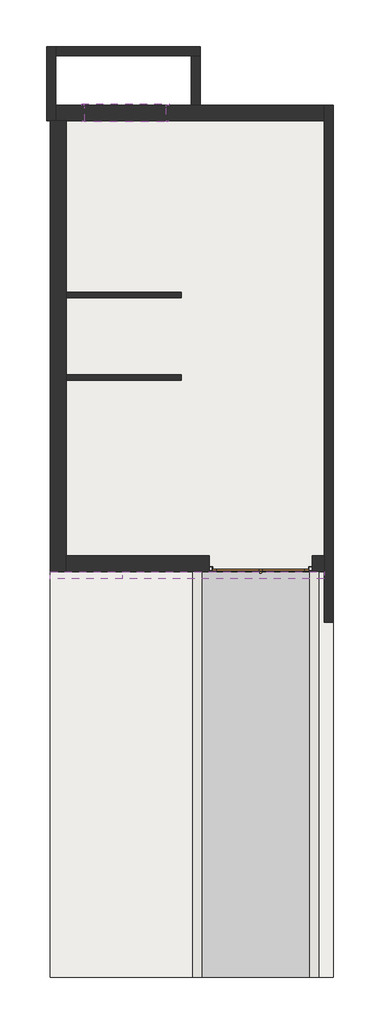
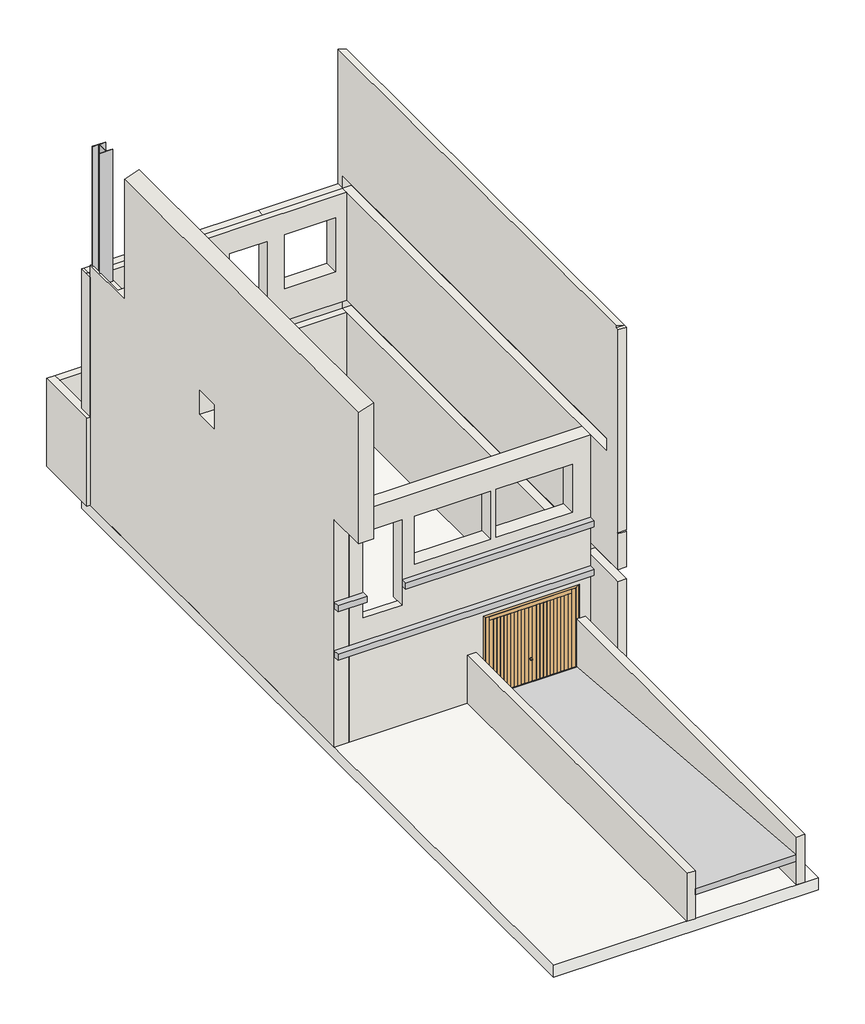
# One storey, incomplete: 11 walls, 2 proxies, 1 column, 1 door, 1 ramp, 1 slab, 1 window.
"""IFC4 building model written with IfcOpenShell, lengths in millimetres."""

import ifcopenshell
import ifcopenshell.guid

model = None  # the IFC model being written
_history = None  # IfcOwnerHistory: only IFC2X3 demands one
_inside = {}  # id of a spatial element -> (the spatial element, [elements in it])
_under = {}  # id of a project, library or spatial element -> (it, [spatial elements below it])
_declared = {}  # id of a project -> (the project, [libraries it declares])
_typed = {}  # id of a type object -> (the type object, [elements of that type])
_made_of = {}  # id of a material, layer set ... -> (it, [elements and type objects made of it])


def new_model(schema):
    """Start an empty IFC model of exactly this schema.

    Asked for "IFC4X3", IfcOpenShell would pick the latest addendum, in which some entities
    have other attributes; the version numbers below select the first issue.
    IFC2X3 requires an IfcOwnerHistory on every rooted entity: one is made here for all.
    """
    global model, _history
    if schema == "IFC4X3":
        model = ifcopenshell.file(schema_version=(4, 3, 0, 0))
    else:
        model = ifcopenshell.file(schema=schema)
    _inside.clear()
    _under.clear()
    _declared.clear()
    _typed.clear()
    _made_of.clear()
    _history = None
    if model.schema == "IFC2X3":
        org = make("IfcOrganization", Name="unknown")
        user = make(
            "IfcPersonAndOrganization",
            ThePerson=make("IfcPerson", FamilyName="unknown"),
            TheOrganization=org,
        )
        app = make(
            "IfcApplication",
            ApplicationDeveloper=org,
            Version="unknown",
            ApplicationFullName="unknown",
            ApplicationIdentifier="unknown",
        )
        _history = make(
            "IfcOwnerHistory",
            OwningUser=user,
            OwningApplication=app,
            ChangeAction="ADDED",
            CreationDate=0,
        )
    return model


def make(cls, **values):
    """One entity of the class cls with the attributes given. An attribute that is None is left unset."""
    return model.create_entity(
        cls, **{name: value for name, value in values.items() if value is not None}
    )


def rooted(cls, **values):
    """An entity with a GlobalId (a new one), such as an element, a storey or a relation."""
    return make(cls, GlobalId=ifcopenshell.guid.new(), OwnerHistory=_history, **values)


def si_unit(unit_type, name, prefix=None):
    """IfcSIUnit, for example si_unit("LENGTHUNIT", "METRE", prefix="MILLI")."""
    return make("IfcSIUnit", UnitType=unit_type, Prefix=prefix, Name=name)


def assignment(units):
    """IfcUnitAssignment: the units of a project."""
    return None if units is None else make("IfcUnitAssignment", Units=units)


def point(xyz):
    """IfcCartesianPoint."""
    return None if xyz is None else make("IfcCartesianPoint", Coordinates=xyz)


def direction(xyz):
    """IfcDirection."""
    return None if xyz is None else make("IfcDirection", DirectionRatios=xyz)


def frame(location, z_axis=None, x_axis=None):
    """IfcAxis2Placement3D, a coordinate frame: its origin and axes. An axis left out is left unset."""
    return make(
        "IfcAxis2Placement3D",
        Location=point(location),
        Axis=direction(z_axis),
        RefDirection=direction(x_axis),
    )


def frame_2d(location, x_axis=None):
    """IfcAxis2Placement2D, a coordinate frame in the plane: its origin and x axis."""
    return make(
        "IfcAxis2Placement2D", Location=point(location), RefDirection=direction(x_axis)
    )


def origin():
    """The frame at (0, 0, 0) with its axes left unset."""
    return frame((0.0, 0.0, 0.0))


def place(relative_to, where):
    """IfcLocalPlacement: puts the frame where relative to a parent placement (None: the world)."""
    return make(
        "IfcLocalPlacement", PlacementRelTo=relative_to, RelativePlacement=where
    )


def context(
    kind, dimensions, precision=None, world=None, true_north=None, identifier=None
):
    """IfcGeometricRepresentationContext, for example the 3D "Model" context."""
    return make(
        "IfcGeometricRepresentationContext",
        ContextIdentifier=identifier,
        ContextType=kind,
        CoordinateSpaceDimension=dimensions,
        Precision=precision,
        WorldCoordinateSystem=world,
        TrueNorth=true_north,
    )


def project(units=None, contexts=None):
    """IfcProject with its units and contexts."""
    return rooted(
        "IfcProject",
        Name="project",
        RepresentationContexts=contexts,
        UnitsInContext=assignment(units),
    )


def spatial(cls, under=None, at=None, **own):
    """A site, building, storey or space (cls), placed at a placement, below another one or the project."""
    s = rooted(cls, ObjectPlacement=at, **own)
    if under is not None:
        _under.setdefault(under.id(), (under, []))[1].append(s)
    return s


def polyline(points):
    """IfcPolyline through the points."""
    return make("IfcPolyline", Points=[point(p) for p in points])


def circle_curve(where, radius):
    """IfcCircle in the frame where."""
    return make("IfcCircle", Position=where, Radius=radius)


def ellipse_curve(where, semi_axis1, semi_axis2):
    """IfcEllipse in the frame where."""
    return make(
        "IfcEllipse", Position=where, SemiAxis1=semi_axis1, SemiAxis2=semi_axis2
    )


def trimmed(basis, trim1, trim2, sense, master):
    """IfcTrimmedCurve: the piece of a basis curve between two trims."""
    return make(
        "IfcTrimmedCurve",
        BasisCurve=basis,
        Trim1=trim1,
        Trim2=trim2,
        SenseAgreement=sense,
        MasterRepresentation=master,
    )


def segment(curve, same_sense, transition):
    """IfcCompositeCurveSegment."""
    return make(
        "IfcCompositeCurveSegment",
        Transition=transition,
        SameSense=same_sense,
        ParentCurve=curve,
    )


def composite_curve(segments, self_intersect=None):
    """IfcCompositeCurve: segments joined end to end."""
    return make("IfcCompositeCurve", Segments=segments, SelfIntersect=self_intersect)


def outline(outer, holes=None, kind="AREA"):
    """IfcArbitraryClosedProfileDef: a profile drawn as a closed curve; with holes, ...WithVoids."""
    if holes is None:
        return make("IfcArbitraryClosedProfileDef", ProfileType=kind, OuterCurve=outer)
    return make(
        "IfcArbitraryProfileDefWithVoids",
        ProfileType=kind,
        OuterCurve=outer,
        InnerCurves=holes,
    )


def extrude(swept, where, along, depth):
    """IfcExtrudedAreaSolid: the profile swept, set in the frame where, extruded along a direction by depth."""
    return make(
        "IfcExtrudedAreaSolid",
        SweptArea=swept,
        Position=where,
        ExtrudedDirection=direction(along),
        Depth=depth,
    )


def faces_of(points, faces, orient=None, outer=None):
    """IfcFace entities. A face is a list of loops; a loop is a list of indices into points, from 0.

    orient and outer hold one flag for each loop. By default every Orientation is true, the
    first loop of a face is its IfcFaceOuterBound and the others are IfcFaceBound.
    """
    made = []
    for i, loops in enumerate(faces):
        bounds = []
        for j, loop in enumerate(loops):
            is_outer = j == 0 if outer is None else outer[i][j]
            bounds.append(
                make(
                    "IfcFaceOuterBound" if is_outer else "IfcFaceBound",
                    Bound=make("IfcPolyLoop", Polygon=[points[k] for k in loop]),
                    Orientation=True if orient is None else orient[i][j],
                )
            )
        made.append(make("IfcFace", Bounds=bounds))
    return made


def faceted_brep(points, faces, orient=None, outer=None, voids=None):
    """IfcFacetedBrep: a solid bounded by flat faces; with voids (closed shells), ...WithVoids."""
    shared = [point(p) for p in points]
    hull = make("IfcClosedShell", CfsFaces=faces_of(shared, faces, orient, outer))
    if voids is None:
        return make("IfcFacetedBrep", Outer=hull)
    return make(
        "IfcFacetedBrepWithVoids",
        Outer=hull,
        Voids=[
            make(cls, CfsFaces=faces_of(shared, fs, o, b)) for cls, fs, o, b in voids
        ],
    )


def shape(context_of_items, identifier, shape_type, items):
    """IfcShapeRepresentation: the items that make up one representation, for example the "Body"."""
    return make(
        "IfcShapeRepresentation",
        ContextOfItems=context_of_items,
        RepresentationIdentifier=identifier,
        RepresentationType=shape_type,
        Items=items,
    )


def source(mapping_origin, context_of_items, identifier, shape_type, items):
    """IfcRepresentationMap: a shape defined once, which mapped items show again and again."""
    return make(
        "IfcRepresentationMap",
        MappingOrigin=mapping_origin,
        MappedRepresentation=shape(context_of_items, identifier, shape_type, items),
    )


def transform(
    local_origin,
    x_axis=None,
    y_axis=None,
    z_axis=None,
    scale=None,
    scale2=None,
    scale3=None,
    uniform=True,
):
    """IfcCartesianTransformationOperator3D, or its non-uniform kind. x_axis, y_axis, z_axis: its Axis1, 2, 3."""
    if uniform:
        return make(
            "IfcCartesianTransformationOperator3D",
            Axis1=direction(x_axis),
            Axis2=direction(y_axis),
            LocalOrigin=point(local_origin),
            Scale=scale,
            Axis3=direction(z_axis),
        )
    return make(
        "IfcCartesianTransformationOperator3DnonUniform",
        Axis1=direction(x_axis),
        Axis2=direction(y_axis),
        LocalOrigin=point(local_origin),
        Scale=scale,
        Axis3=direction(z_axis),
        Scale2=scale2,
        Scale3=scale3,
    )


def mapped(mapping_source, mapping_target):
    """IfcMappedItem: shows the shape of a source again, moved by a transform."""
    return make(
        "IfcMappedItem", MappingSource=mapping_source, MappingTarget=mapping_target
    )


def made_of(thing, what):
    """Note that an element or type object is made of a material, layer set ...; save() writes the relation."""
    if what is not None:
        _made_of.setdefault(what.id(), (what, []))[1].append(thing)
    return thing


def element(
    cls,
    number,
    at=None,
    inside=None,
    cuts=None,
    type_object=None,
    material=None,
    context=None,
    identifier="Body",
    shape_type=None,
    held_by="IfcProductDefinitionShape",
    body=None,
    shapes=None,
    **own,
):
    """One element of the class cls, such as IfcWall. Its Tag is "e" and its number.

    at: its placement. inside: the storey or other place that contains it. cuts: it is an
    opening in that element (IfcRelVoidsElement). A single representation is given by context,
    identifier, shape_type and body (its items); several are given by shapes. held_by: the class
    of the entity that holds the representations. save() writes the other relations.
    """
    e = rooted(cls, Tag="e%d" % number, ObjectPlacement=at, **own)
    if body is not None:
        shapes = [shape(context, identifier, shape_type, body)]
    if shapes is not None:
        e.Representation = make(held_by, Representations=shapes)
    if inside is not None:
        _inside.setdefault(inside.id(), (inside, []))[1].append(e)
    if cuts is not None:
        rooted(
            "IfcRelVoidsElement", RelatingBuildingElement=cuts, RelatedOpeningElement=e
        )
    if type_object is not None:
        _typed.setdefault(type_object.id(), (type_object, []))[1].append(e)
    return made_of(e, material)


def aggregate(whole, parts):
    """IfcRelAggregates: a whole, such as a stair, and the parts it consists of."""
    return rooted("IfcRelAggregates", RelatingObject=whole, RelatedObjects=parts)


def save(model, path):
    """Write the relations noted so far, then the file.

    IfcRelAggregates (storeys below a building ...), IfcRelContainedInSpatialStructure (elements
    in a storey), IfcRelDefinesByType, IfcRelAssociatesMaterial and IfcRelDeclares: one each for
    every whole, place, type object, material and project.
    """
    for whole, parts in _under.values():
        aggregate(whole, parts)
    for where, things in _inside.values():
        rooted(
            "IfcRelContainedInSpatialStructure",
            RelatedElements=things,
            RelatingStructure=where,
        )
    for kind, things in _typed.values():
        rooted("IfcRelDefinesByType", RelatedObjects=things, RelatingType=kind)
    for what, things in _made_of.values():
        rooted("IfcRelAssociatesMaterial", RelatedObjects=things, RelatingMaterial=what)
    for by, libraries in _declared.values():
        rooted("IfcRelDeclares", RelatingContext=by, RelatedDefinitions=libraries)
    model.write(path)


def plane_surface(at):
    """IfcPlane: the flat surface through the origin of the frame at, square to its z axis."""
    return make("IfcPlane", Position=at)


def cylinder_surface(at, radius):
    """IfcCylindricalSurface: all points at the distance radius from the z axis of the frame at."""
    return make("IfcCylindricalSurface", Position=at, Radius=radius)


def revolved_surface(curve, axis_point, axis_direction):
    """IfcSurfaceOfRevolution: the curve turned about the line through axis_point along axis_direction."""
    return make(
        "IfcSurfaceOfRevolution",
        SweptCurve=make("IfcArbitraryOpenProfileDef", ProfileType="CURVE", Curve=curve),
        AxisPosition=make("IfcAxis1Placement", Location=point(axis_point), Axis=direction(axis_direction)),
    )


def advanced_brep(points, edges, surfaces, faces):
    """IfcAdvancedBrep: a solid bounded by faces that lie on surfaces and meet in shared edges.

    An edge is (start, end): straight between two places in points (the first is 0);
    or (start, end, curve); or (start, end, curve, False) where it runs against its curve.
    A face is (place in surfaces, loops), or (place, loops, False) where it looks against
    its surface's normal. A loop lists edges by number (the first is 1), with a minus sign
    where the edge is run from its end to its start. The first loop is the outer one.
    """
    corners = [point(p) for p in points]
    vertices = [make("IfcVertexPoint", VertexGeometry=c) for c in corners]
    made = []
    for start, end, *more in edges:
        made.append(
            make(
                "IfcEdgeCurve",
                EdgeStart=vertices[start],
                EdgeEnd=vertices[end],
                EdgeGeometry=more[0] if more else make("IfcPolyline", Points=[corners[start], corners[end]]),
                SameSense=more[1] if len(more) > 1 else True,
            )
        )
    hull = []
    for where, loops, *sense in faces:
        bounds = []
        for j, loop in enumerate(loops):
            ring = [make("IfcOrientedEdge", EdgeElement=made[abs(k) - 1], Orientation=k > 0) for k in loop]
            bounds.append(
                make(
                    "IfcFaceOuterBound" if j == 0 else "IfcFaceBound",
                    Bound=make("IfcEdgeLoop", EdgeList=ring),
                    Orientation=True,
                )
            )
        hull.append(make("IfcAdvancedFace", Bounds=bounds, FaceSurface=surfaces[where], SameSense=sense[0] if sense else True))
    return make("IfcAdvancedBrep", Outer=make("IfcClosedShell", CfsFaces=hull))


def uc_universal_column_column1_305x305x97uc_55296ce6(model_context):
    return source(origin(), model_context, "Body", "SweptSolid", [
        extrude(outline(composite_curve([segment(polyline([(152.65, 153.95), (152.65, 138.55), (20.15, 138.55)]), True, "CONTINUOUS"), segment(trimmed(circle_curve(frame_2d((20.15, 123.35)), 15.2), [point((20.15, 138.55))], [point((4.95, 123.35))], True, "CARTESIAN"), True, "CONTINUOUS"), segment(polyline([(4.95, 123.35), (4.95, -123.35)]), True, "CONTINUOUS"), segment(trimmed(circle_curve(frame_2d((20.15, -123.35)), 15.2), [point((4.95, -123.35))], [point((20.15, -138.55))], True, "CARTESIAN"), True, "CONTINUOUS"), segment(polyline([(20.15, -138.55), (152.65, -138.55), (152.65, -153.95), (-152.65, -153.95), (-152.65, -138.55), (-20.15, -138.55)]), True, "CONTINUOUS"), segment(trimmed(circle_curve(frame_2d((-20.15, -123.35)), 15.2), [point((-20.15, -138.55))], [point((-4.95, -123.35))], True, "CARTESIAN"), True, "CONTINUOUS"), segment(polyline([(-4.95, -123.35), (-4.95, 123.35)]), True, "CONTINUOUS"), segment(trimmed(circle_curve(frame_2d((-20.15, 123.35)), 15.2), [point((-4.95, 123.35))], [point((-20.15, 138.55))], True, "CARTESIAN"), True, "CONTINUOUS"), segment(polyline([(-20.15, 138.55), (-152.65, 138.55), (-152.65, 153.95), (152.65, 153.95)]), True, "CONTINUOUS")], self_intersect=False)), frame((0.0, 0.0, -3000.0), z_axis=(0.0, 0.0, 1.0), x_axis=(1.0, 0.0, 0.0)), (0.0, 0.0, 1.0), 9000.0),
    ])


def so_2285x2044_3bf3b656(model_context):
    return source(origin(), model_context, "Body", "SolidModel", [
        advanced_brep(
        [(19.8922848, -155.0, 578.0), (19.8922848, -160.4263394, 578.0), (-19.8922848, -160.4263394, 578.0), (-19.8922848, -155.0, 578.0), (0.0, -155.0, 578.0), (5.3983778, -169.5521327, 578.0), (0.0, -207.3973344, 578.0), (-5.3983778, -169.5521327, 578.0), (5.3983778, -160.4263394, 578.0), (-5.3983778, -160.4263394, 578.0)],
        [
            (0, 1),
            (1, 2, circle_curve(frame((0.0, -160.4263394, 578.0), z_axis=(0.0, 1.0, 0.0), x_axis=(-1.0, 0.0, 0.0)), 19.8922848)),
            (2, 3),
            (3, 0, circle_curve(frame((0.0, -155.0, 578.0), z_axis=(0.0, -1.0, 0.0), x_axis=(-1.0, 0.0, 0.0)), 19.8922848)),
            (2, 1, circle_curve(frame((0.0, -160.4263394, 578.0), z_axis=(0.0, 1.0, 0.0), x_axis=(-1.0, 0.0, 0.0)), 19.8922848)),
            (0, 3, circle_curve(frame((0.0, -155.0, 578.0), z_axis=(0.0, -1.0, 0.0), x_axis=(-1.0, 0.0, 0.0)), 19.8922848)),
            (4, 0),
            (3, 4),
            (5, 6, circle_curve(frame((3.7459532, -188.6240479, 578.0), z_axis=(0.0, 0.0, -1.0), x_axis=(0.0, -1.0, 0.0)), 19.1433658)),
            (6, 7, circle_curve(frame((-3.7459532, -188.6240479, 578.0), z_axis=(0.0, 0.0, -1.0), x_axis=(0.0, -1.0, 0.0)), 19.1433658)),
            (7, 5, circle_curve(frame((0.0, -169.5521327, 578.0), z_axis=(0.0, -1.0, 0.0), x_axis=(-1.0, 0.0, 0.0)), 5.3983778)),
            (5, 7, circle_curve(frame((0.0, -169.5521327, 578.0), z_axis=(0.0, -1.0, 0.0), x_axis=(-1.0, 0.0, 0.0)), 5.3983778)),
            (8, 5),
            (7, 9),
            (9, 8, circle_curve(frame((0.0, -160.4263394, 578.0), z_axis=(0.0, -1.0, 0.0), x_axis=(-1.0, 0.0, 0.0)), 5.3983778)),
            (8, 9, circle_curve(frame((0.0, -160.4263394, 578.0), z_axis=(0.0, -1.0, 0.0), x_axis=(-1.0, 0.0, 0.0)), 5.3983778)),
            (1, 8),
            (9, 2),
        ],
        [
            cylinder_surface(frame((0.0, -207.3973344, 578.0), z_axis=(0.0, 1.0, 0.0), x_axis=(-1.0, 0.0, 0.0)), 19.8922848),
            plane_surface(frame((0.0, -155.0, 578.0), z_axis=(0.0, 1.0, 0.0), x_axis=(-1.0, 0.0, 0.0))),
            revolved_surface(trimmed(ellipse_curve(frame((-3.7459532, -188.6240479, 578.0), z_axis=(0.0, 0.0, -1.0), x_axis=(0.0, -1.0, 0.0)), 19.1433658, 19.1433658), [point((0.0, -207.3973344, 578.0))], [point((-5.3983778, -169.5521327, 578.0))], True, "CARTESIAN"), (0.0, -207.3973344, 578.0), (0.0, 1.0, 0.0)),
            cylinder_surface(frame((0.0, -207.3973344, 578.0), z_axis=(0.0, 1.0, 0.0), x_axis=(-1.0, 0.0, 0.0)), 5.3983778),
            plane_surface(frame((0.0, -160.4263394, 578.0), z_axis=(0.0, -1.0, 0.0), x_axis=(-1.0, 0.0, 0.0))),
        ],
        [
            (0, [[1, 2, 3, 4]]),
            (0, [[-3, 5, -1, 6]]),
            (1, [[7, -4, 8]]),
            (1, [[-8, -6, -7]]),
            (2, [[9, 10, 11]]),
            (2, [[-10, -9, 12]]),
            (3, [[13, -11, 14, 15]]),
            (3, [[-14, -12, -13, 16]]),
            (4, [[17, -15, 18, -2]]),
            (4, [[-18, -16, -17, -5]]),
        ],
    ),
        extrude(outline(polyline([(888.2272727, -155.0), (888.2272727, -150.0), (883.2272727, -150.0), (883.2272727, -155.0), (804.4545455, -155.0), (804.4545455, -150.0), (799.4545455, -150.0), (799.4545455, -155.0), (720.6818182, -155.0), (720.6818182, -150.0), (715.6818182, -150.0), (715.6818182, -155.0), (636.9090909, -155.0), (636.9090909, -150.0), (631.9090909, -150.0), (631.9090909, -155.0), (553.1363636, -155.0), (553.1363636, -150.0), (548.1363636, -150.0), (548.1363636, -155.0), (469.3636364, -155.0), (469.3636364, -150.0), (464.3636364, -150.0), (464.3636364, -155.0), (385.5909091, -155.0), (385.5909091, -150.0), (380.5909091, -150.0), (380.5909091, -155.0), (301.8181818, -155.0), (301.8181818, -150.0), (296.8181818, -150.0), (296.8181818, -155.0), (218.0454545, -155.0), (218.0454545, -150.0), (213.0454545, -150.0), (213.0454545, -155.0), (134.2727273, -155.0), (134.2727273, -150.0), (129.2727273, -150.0), (129.2727273, -155.0), (48.0, -155.0), (48.0, -115.0), (969.5, -115.0), (969.5, -155.0), (888.2272727, -155.0)])), frame((0.0, 0.0, 3.0), z_axis=(0.0, 0.0, 1.0), x_axis=(1.0, 0.0, 0.0)), (0.0, 0.0, 1.0), 1868.0),
        extrude(outline(polyline([(-888.2272727, -155.0), (-969.5, -155.0), (-969.5, -115.0), (-48.0, -115.0), (-48.0, -155.0), (-129.2727273, -155.0), (-129.2727273, -150.0), (-134.2727273, -150.0), (-134.2727273, -155.0), (-213.0454545, -155.0), (-213.0454545, -150.0), (-218.0454545, -150.0), (-218.0454545, -155.0), (-296.8181818, -155.0), (-296.8181818, -150.0), (-301.8181818, -150.0), (-301.8181818, -155.0), (-380.5909091, -155.0), (-380.5909091, -150.0), (-385.5909091, -150.0), (-385.5909091, -155.0), (-464.3636364, -155.0), (-464.3636364, -150.0), (-469.3636364, -150.0), (-469.3636364, -155.0), (-548.1363636, -155.0), (-548.1363636, -150.0), (-553.1363636, -150.0), (-553.1363636, -155.0), (-631.9090909, -155.0), (-631.9090909, -150.0), (-636.9090909, -150.0), (-636.9090909, -155.0), (-715.6818182, -155.0), (-715.6818182, -150.0), (-720.6818182, -150.0), (-720.6818182, -155.0), (-799.4545455, -155.0), (-799.4545455, -150.0), (-804.4545455, -150.0), (-804.4545455, -155.0), (-883.2272727, -155.0), (-883.2272727, -150.0), (-888.2272727, -150.0), (-888.2272727, -155.0)])), frame((0.0, 0.0, 3.0), z_axis=(0.0, 0.0, 1.0), x_axis=(1.0, 0.0, 0.0)), (0.0, 0.0, 1.0), 1868.0),
        extrude(outline(polyline([(-969.5, -155.0), (-969.5, -115.0), (969.5, -115.0), (969.5, -155.0), (-969.5, -155.0)])), frame((0.0, 0.0, 1871.0), z_axis=(0.0, 0.0, 1.0), x_axis=(1.0, 0.0, 0.0)), (0.0, 0.0, 1.0), 95.0),
        extrude(outline(polyline([(969.5, -155.0), (969.5, -115.0), (1064.5, -115.0), (1064.5, -155.0), (969.5, -155.0)])), frame((0.0, 0.0, 3.0), z_axis=(0.0, 0.0, 1.0), x_axis=(1.0, 0.0, 0.0)), (0.0, 0.0, 1.0), 1963.0),
        extrude(outline(polyline([(-1064.5, -155.0), (-1064.5, -115.0), (-969.5, -115.0), (-969.5, -155.0), (-1064.5, -155.0)])), frame((0.0, 0.0, 3.0), z_axis=(0.0, 0.0, 1.0), x_axis=(1.0, 0.0, 0.0)), (0.0, 0.0, 1.0), 1963.0),
        extrude(outline(polyline([(-48.0, -155.0), (-48.0, -115.0), (48.0, -115.0), (48.0, -155.0), (-48.0, -155.0)])), frame((0.0, 0.0, 3.0), z_axis=(0.0, 0.0, 1.0), x_axis=(1.0, 0.0, 0.0)), (0.0, 0.0, 1.0), 1868.0),
        faceted_brep([(-1142.5, -155.0, 0.0), (-1142.5, -142.0, 0.0), (-1139.5, -142.0, 0.0), (-1139.5, -152.0, 0.0), (-1070.5, -152.0, 0.0), (-1070.5, -68.0, 0.0), (-1139.5, -68.0, 0.0), (-1139.5, -78.0, 0.0), (-1142.5, -78.0, 0.0), (-1142.5, -65.0, 0.0), (-1067.5, -65.0, 0.0), (-1067.5, -155.0, 0.0), (-1067.5, -155.0, 1969.0), (-1142.5, -155.0, 2044.0), (-1067.5, -65.0, 1969.0), (-1142.5, -65.0, 2044.0), (-1142.5, -78.0, 2044.0), (-1139.5, -78.0, 2041.0), (-1139.5, -68.0, 2041.0), (-1070.5, -68.0, 1972.0), (-1070.5, -152.0, 1972.0), (-1139.5, -152.0, 2041.0), (-1139.5, -142.0, 2041.0), (-1142.5, -142.0, 2044.0), (1067.5, -155.0, 1969.0), (1142.5, -155.0, 2044.0), (1067.5, -65.0, 1969.0), (1142.5, -65.0, 2044.0), (1142.5, -78.0, 2044.0), (1139.5, -78.0, 2041.0), (1139.5, -68.0, 2041.0), (1070.5, -68.0, 1972.0), (1070.5, -152.0, 1972.0), (1139.5, -152.0, 2041.0), (1139.5, -142.0, 2041.0), (1142.5, -142.0, 2044.0), (1142.5, -155.0, 0.0), (1067.5, -155.0, 0.0), (1067.5, -65.0, 0.0), (1142.5, -65.0, 0.0), (1142.5, -78.0, 0.0), (1139.5, -78.0, 0.0), (1139.5, -68.0, 0.0), (1070.5, -68.0, 0.0), (1070.5, -152.0, 0.0), (1139.5, -152.0, 0.0), (1139.5, -142.0, 0.0), (1142.5, -142.0, 0.0)], [[[0, 1, 2, 3, 4, 5, 6, 7, 8, 9, 10, 11]], [[11, 12, 13, 0]], [[10, 14, 12, 11]], [[9, 15, 14, 10]], [[8, 16, 15, 9]], [[7, 17, 16, 8]], [[6, 18, 17, 7]], [[5, 19, 18, 6]], [[4, 20, 19, 5]], [[3, 21, 20, 4]], [[2, 22, 21, 3]], [[1, 23, 22, 2]], [[0, 13, 23, 1]], [[12, 24, 25, 13]], [[14, 26, 24, 12]], [[15, 27, 26, 14]], [[16, 28, 27, 15]], [[17, 29, 28, 16]], [[18, 30, 29, 17]], [[19, 31, 30, 18]], [[20, 32, 31, 19]], [[21, 33, 32, 20]], [[22, 34, 33, 21]], [[23, 35, 34, 22]], [[13, 25, 35, 23]], [[36, 37, 38, 39, 40, 41, 42, 43, 44, 45, 46, 47]], [[24, 37, 36, 25]], [[26, 38, 37, 24]], [[27, 39, 38, 26]], [[28, 40, 39, 27]], [[29, 41, 40, 28]], [[30, 42, 41, 29]], [[31, 43, 42, 30]], [[32, 44, 43, 31]], [[33, 45, 44, 32]], [[34, 46, 45, 33]], [[35, 47, 46, 34]], [[25, 36, 47, 35]]]),
    ])


def ramp_1_c634dc8e(model_context):
    return source(origin(), model_context, "Body", "SweptSolid", [
        extrude(outline(polyline([(-14776.7671527, -2250.0), (-5776.7671527, -3000.0), (-5776.7671527, -3150.5199322), (-14776.7671527, -2400.5199322), (-14776.7671527, -2250.0)])), frame((-4779.3266822, 0.0, 0.0), z_axis=(1.0, 0.0, 0.0), x_axis=(0.0, 1.0, 0.0)), (0.0, 0.0, 1.0), 2400.0),
    ])


def window_1800_x_450mm_4e5ac976(model_context):
    return source(origin(), model_context, "Body", "SweptSolid", [
        extrude(outline(polyline([(-1008.05, 200.7), (931.85, 200.7), (931.85, 175.0), (-1008.05, 175.0), (-1008.05, 200.7)])), frame((0.0, 0.0, 2159.0), z_axis=(0.0, 0.0, 1.0), x_axis=(1.0, 0.0, 0.0)), (0.0, 0.0, 1.0), 19.05),
        extrude(outline(polyline([(2589.95, -919.05), (2589.95, 842.85), (2178.05, 842.85), (2178.05, 931.85), (2678.95, 931.85), (2678.95, -1008.05), (2178.05, -1008.05), (2178.05, -919.05), (2589.95, -919.05)])), frame((0.0, 175.0, 0.0), z_axis=(0.0, 1.0, 0.0), x_axis=(0.0, 0.0, 1.0)), (0.0, 0.0, 1.0), 13.0),
        extrude(outline(polyline([(2666.25, 919.15), (2666.25, -995.35), (2101.75, -995.35), (2101.75, 919.15), (2666.25, 919.15)]), holes=[polyline([(2577.25, 830.15), (2190.75, 830.15), (2190.75, -906.35), (2577.25, -906.35), (2577.25, 830.15)])]), frame((0.0, -194.0, 0.0), z_axis=(0.0, 1.0, 0.0), x_axis=(0.0, 0.0, 1.0)), (0.0, 0.0, 1.0), 19.0),
        extrude(outline(polyline([(798.4, 127.425), (-874.6, 127.425), (-874.6, 140.125), (798.4, 140.125), (798.4, 127.425)])), frame((0.0, 0.0, 2222.5), z_axis=(0.0, 0.0, 1.0), x_axis=(1.0, 0.0, 0.0)), (0.0, 0.0, 1.0), 323.0),
        extrude(outline(polyline([(2589.95, -919.05), (2178.05, -919.05), (2178.05, 842.85), (2589.95, 842.85), (2589.95, -919.05)]), holes=[polyline([(2545.5, -874.6), (2545.5, 798.4), (2222.5, 798.4), (2222.5, -874.6), (2545.5, -874.6)])]), frame((0.0, 111.55, 0.0), z_axis=(0.0, 1.0, 0.0), x_axis=(0.0, 0.0, 1.0)), (0.0, 0.0, 1.0), 44.45),
        extrude(outline(polyline([(2609.0, -938.1), (2159.0, -938.1), (2159.0, 861.9), (2609.0, 861.9), (2609.0, -938.1)]), holes=[polyline([(2577.25, -906.35), (2577.25, 830.15), (2190.75, 830.15), (2190.75, -906.35), (2577.25, -906.35)])]), frame((0.0, -175.0, 0.0), z_axis=(0.0, 1.0, 0.0), x_axis=(0.0, 0.0, 1.0)), (0.0, 0.0, 1.0), 286.55),
        extrude(outline(polyline([(2609.0, 861.9), (2609.0, -938.1), (2159.0, -938.1), (2159.0, 861.9), (2609.0, 861.9)]), holes=[polyline([(2589.95, 842.85), (2178.05, 842.85), (2178.05, -919.05), (2589.95, -919.05), (2589.95, 842.85)])]), frame((0.0, 111.55, 0.0), z_axis=(0.0, 1.0, 0.0), x_axis=(0.0, 0.0, 1.0)), (0.0, 0.0, 1.0), 63.45),
    ])


model = new_model("IFC4")

# Units and contexts
model_context = context("Model", 3, world=origin())
ifc_project = project(units=[si_unit("LENGTHUNIT", "METRE", prefix="MILLI")], contexts=[model_context])

# Site, building, storey
site = spatial("IfcSite", under=ifc_project)
building = spatial("IfcBuilding", under=site)
storey = spatial("IfcBuildingStorey", under=building, Name="Garaz", Elevation=-3000.0)

# Proxies
placement = place(None, origin())
element("IfcBuildingElementProxy", 1, Name="Cornice", ObjectType="Cornice", at=placement, inside=storey, context=model_context, shape_type="SweptSolid", body=[
    extrude(outline(polyline([(-6529.8266822, -5929.1671527), (-6529.8266822, -5776.7671527), (-2061.8266822, -5776.7671527), (-2061.8266822, -5929.1671527), (-6529.8266822, -5929.1671527)])), frame((0.0, 0.0, 481.8451905), z_axis=(0.0, 0.0, 1.0), x_axis=(1.0, 0.0, 0.0)), (0.0, 0.0, 1.0), 152.4),
    extrude(outline(polyline([(-8133.3266822, -5929.1671527), (-8133.3266822, -5776.7671527), (-7443.8266822, -5776.7671527), (-7443.8266822, -5929.1671527), (-8133.3266822, -5929.1671527)])), frame((0.0, 0.0, 481.8451905), z_axis=(0.0, 0.0, 1.0), x_axis=(1.0, 0.0, 0.0)), (0.0, 0.0, 1.0), 152.4),
])
element("IfcBuildingElementProxy", 2, Name="Cornice", ObjectType="Cornice", at=placement, inside=storey, context=model_context, shape_type="SweptSolid", body=[
    extrude(outline(polyline([(-8133.3266822, -5929.1671527), (-8133.3266822, -5776.7671527), (-2061.8266822, -5776.7671527), (-2061.8266822, -5929.1671527), (-8133.3266822, -5929.1671527)])), frame((0.0, 0.0, -729.9229174), z_axis=(0.0, 0.0, 1.0), x_axis=(1.0, 0.0, 0.0)), (0.0, 0.0, 1.0), 152.4),
])

# Column
uc_universal_column_column1_305x305x97uc_shape = uc_universal_column_column1_305x305x97uc_55296ce6(model_context)
element("IfcColumn", 3, ObjectType="UC-Universal Column-Column1 : 305x305x97UC", at=placement, inside=storey, context=model_context, shape_type="MappedRepresentation", body=[
    mapped(uc_universal_column_column1_305x305x97uc_shape, transform((-7961.8266822, 4019.7328473, 0.0), x_axis=(1.0, 0.0, 0.0), y_axis=(0.0, 1.0, 0.0), z_axis=(0.0, 0.0, 1.0))),
])

# Door
so_2285x2044_shape = so_2285x2044_3bf3b656(model_context)
element("IfcDoor", 4, ObjectType="Garage-UpandOver-Type A : SO 2285x2044", at=placement, inside=storey, context=model_context, shape_type="MappedRepresentation", body=[
    mapped(so_2285x2044_shape, transform((-3468.5130621, -5601.7671527, -3000.0), x_axis=(1.0, 0.0, 0.0), y_axis=(0.0, 1.0, 0.0), z_axis=(0.0, 0.0, 1.0))),
])

# Ramp
ramp_1_shape = ramp_1_c634dc8e(model_context)
element("IfcRamp", 5, ObjectType="Ramp 1", at=placement, inside=storey, context=model_context, shape_type="MappedRepresentation", body=[
    mapped(ramp_1_shape, transform((0.0, 0.0, 0.0), x_axis=(1.0, 0.0, 0.0), y_axis=(0.0, 1.0, 0.0), z_axis=(0.0, 0.0, 1.0))),
])

# Slab
element("IfcSlab", 6, ObjectType="Domestic Slab", at=placement, inside=storey, context=model_context, shape_type="SweptSolid", body=[
    extrude(outline(polyline([(-8133.3266822, 4576.7328473), (-1861.8266822, 4576.7328473), (-1861.8266822, -14776.7671527), (-8133.3266822, -14776.7671527), (-8133.3266822, 4576.7328473)])), frame((0.0, 0.0, -3300.0), z_axis=(0.0, 0.0, 1.0), x_axis=(1.0, 0.0, 0.0)), (0.0, 0.0, 1.0), 300.0),
])

# Walls
element("IfcWall", 7, ObjectType="Exterior - Brick on Mtl. Stud", at=placement, inside=storey, context=model_context, shape_type="Brep", body=[
    faceted_brep([(-8133.3266822, 4223.2328473, -3000.0), (-8133.3266822, -5776.7671527, -3000.0), (-8133.3266822, -5776.7671527, -729.9229174), (-8133.3266822, -5776.7671527, -577.5229174), (-8133.3266822, -5776.7671527, 481.8451905), (-8133.3266822, -5776.7671527, 634.2451905), (-8133.3266822, -5776.7671527, 2700.0), (-8133.3266822, -6780.2671527, 2700.0), (-8133.3266822, -6780.2671527, 6000.0), (-8133.3266822, 2823.2328473, 6000.0), (-8133.3266822, 2823.2328473, 3000.0), (-8133.3266822, 4223.2328473, 3000.0), (-8133.3266822, -856.8406402, 2583.8025508), (-8133.3266822, -856.8406402, 1983.8025508), (-8133.3266822, -256.8406402, 1983.8025508), (-8133.3266822, -256.8406402, 2583.8025508), (-7783.3266822, -5776.7671527, -3000.0), (-7783.3266822, 4223.2328473, -3000.0), (-7783.3266822, 4223.2328473, -300.0), (-7783.3266822, 298.1593598, -300.0), (-7783.3266822, 298.1593598, 0.0), (-7783.3266822, 4223.2328473, 0.0), (-7783.3266822, 4223.2328473, 2700.0), (-7783.3266822, 298.1593598, 2700.0), (-7783.3266822, 298.1593598, 3000.0), (-7783.3266822, 2823.2328473, 3000.0), (-7783.3266822, 2823.2328473, 6112.3021997), (-7783.3266822, -6780.2671527, 6112.3021997), (-7783.3266822, -6780.2671527, 2700.0), (-7783.3266822, -6423.2671527, 2700.0), (-7783.3266822, -6423.2671527, 3000.0), (-7783.3266822, -1401.8406402, 3000.0), (-7783.3266822, -1401.8406402, 2700.0), (-7783.3266822, -5776.7671527, 2700.0), (-7783.3266822, -5776.7671527, 634.2451905), (-7783.3266822, -5776.7671527, 481.8451905), (-7783.3266822, -5776.7671527, -577.5229174), (-7783.3266822, -5776.7671527, -729.9229174), (-7783.3266822, -856.8406402, 1983.8025508), (-7783.3266822, -856.8406402, 2583.8025508), (-7783.3266822, -256.8406402, 2583.8025508), (-7783.3266822, -256.8406402, 1983.8025508), (-7783.3266822, -1401.8406402, -300.0), (-7783.3266822, -5595.2671527, -300.0), (-7783.3266822, -5595.2671527, 0.0), (-7783.3266822, -1401.8406402, 0.0), (-7948.3266822, -5776.7671527, 2700.0), (-7948.3266822, -6423.2671527, 2700.0), (-7948.3266822, 2823.2328473, 3000.0), (-7948.3266822, 3173.2328473, 3000.0), (-8088.3266822, 3173.2328473, 3000.0), (-8088.3266822, 4223.2328473, 3000.0), (-8088.3266822, 4223.2328473, 2700.0), (-7948.3266822, 4223.2328473, 0.0), (-7948.3266822, 4223.2328473, -300.0), (-7948.3266822, -1401.8406402, -300.0), (-7948.3266822, -5595.2671527, -300.0), (-7948.3266822, 298.1593598, -300.0), (-7948.3266822, -5595.2671527, 0.0), (-7948.3266822, -1401.8406402, 0.0), (-7948.3266822, 298.1593598, 0.0), (-7948.3266822, 3173.2328473, 2700.0), (-7948.3266822, 298.1593598, 2700.0), (-8088.3266822, 3173.2328473, 2700.0), (-7948.3266822, -1401.8406402, 2700.0), (-7948.3266822, -6423.2671527, 3000.0), (-7948.3266822, -1401.8406402, 3000.0), (-7948.3266822, 298.1593598, 3000.0)], [[[0, 1, 2, 3, 4, 5, 6, 7, 8, 9, 10, 11], [12, 13, 14, 15]], [[16, 17, 18, 19, 20, 21, 22, 23, 24, 25, 26, 27, 28, 29, 30, 31, 32, 33, 34, 35, 36, 37], [38, 39, 40, 41], [42, 43, 44, 45]], [[1, 0, 17, 16]], [[7, 6, 46, 47, 29, 28]], [[8, 7, 28, 27]], [[11, 10, 48, 49, 50, 51]], [[10, 9, 26, 25, 48]], [[1, 16, 37, 36, 35, 34, 33, 46, 6, 5, 4, 3, 2]], [[0, 11, 51, 52, 22, 21, 53, 54, 18, 17]], [[9, 8, 27, 26]], [[39, 38, 13, 12]], [[40, 39, 12, 15]], [[41, 40, 15, 14]], [[38, 41, 14, 13]], [[55, 56, 43, 42]], [[57, 19, 18, 54]], [[58, 59, 45, 44]], [[60, 53, 21, 20]], [[60, 57, 54, 53]], [[56, 58, 44, 43]], [[56, 55, 59, 58]], [[59, 55, 42, 45]], [[57, 60, 20, 19]], [[61, 62, 23, 22, 52, 63]], [[64, 46, 33, 32]], [[65, 66, 31, 30]], [[67, 48, 25, 24]], [[47, 65, 30, 29]], [[66, 65, 47, 46, 64]], [[66, 64, 32, 31]], [[62, 67, 24, 23]], [[62, 61, 49, 48, 67]], [[61, 63, 50, 49]], [[50, 63, 52, 51]]]),
])
element("IfcWall", 8, ObjectType="Exterior - Brick on Mtl. Stud", at=placement, inside=storey, context=model_context, shape_type="Brep", body=[
    faceted_brep([(-2061.8266822, -5776.7671527, -3000.0), (-2061.8266822, -5776.7671527, 2700.0), (-7783.3266822, -5776.7671527, 2700.0), (-7783.3266822, -5776.7671527, -1500.0), (-7783.3266822, -5776.7671527, -1800.0), (-7783.3266822, -5776.7671527, -3000.0), (-4979.3266822, -5776.7671527, -3000.0), (-4779.3266822, -5776.7671527, -3000.0), (-4611.0130621, -5776.7671527, -3000.0), (-4611.0130621, -5776.7671527, -956.0), (-2326.0130621, -5776.7671527, -956.0), (-2326.0130621, -5776.7671527, -3000.0), (-2179.3266822, -5776.7671527, -3000.0), (-7443.8266822, -5776.7671527, 0.0), (-7443.8266822, -5776.7671527, 2134.0), (-6529.8266822, -5776.7671527, 2134.0), (-6529.8266822, -5776.7671527, 0.0), (-4429.8266822, -5776.7671527, 2115.0), (-4429.8266822, -5776.7671527, 915.0), (-6229.8266822, -5776.7671527, 915.0), (-6229.8266822, -5776.7671527, 2115.0), (-4295.8266822, -5776.7671527, 915.0), (-4295.8266822, -5776.7671527, 2115.0), (-2495.8266822, -5776.7671527, 2115.0), (-2495.8266822, -5776.7671527, 915.0), (-7783.3266822, -5426.7671527, 2700.0), (-2061.8266822, -5426.7671527, 2700.0), (-2061.8266822, -5426.7671527, 0.0), (-6529.8266822, -5426.7671527, 0.0), (-6529.8266822, -5426.7671527, 2134.0), (-7443.8266822, -5426.7671527, 2134.0), (-7443.8266822, -5426.7671527, 0.0), (-7783.3266822, -5426.7671527, 0.0), (-4429.8266822, -5426.7671527, 915.0), (-4429.8266822, -5426.7671527, 2115.0), (-6229.8266822, -5426.7671527, 2115.0), (-6229.8266822, -5426.7671527, 915.0), (-4295.8266822, -5426.7671527, 2115.0), (-4295.8266822, -5426.7671527, 915.0), (-2495.8266822, -5426.7671527, 915.0), (-2495.8266822, -5426.7671527, 2115.0), (-2326.0130621, -5426.7671527, -3000.0), (-2326.0130621, -5426.7671527, -956.0), (-4611.0130621, -5426.7671527, -956.0), (-4611.0130621, -5426.7671527, -3000.0), (-7783.3266822, -5426.7671527, -3000.0), (-7783.3266822, -5426.7671527, -300.0), (-2061.8266822, -5426.7671527, -300.0), (-2061.8266822, -5426.7671527, -3000.0), (-2061.8266822, -5595.2671527, -300.0), (-2061.8266822, -5595.2671527, 0.0), (-7783.3266822, -5595.2671527, 0.0), (-7783.3266822, -5595.2671527, -300.0), (-7443.8266822, -5595.2671527, 0.0), (-6529.8266822, -5595.2671527, 0.0)], [[[0, 1, 2, 3, 4, 5, 6, 7, 8, 9, 10, 11, 12], [13, 14, 15, 16], [17, 18, 19, 20], [21, 22, 23, 24]], [[25, 26, 27, 28, 29, 30, 31, 32], [33, 34, 35, 36], [37, 38, 39, 40]], [[41, 42, 43, 44, 45, 46, 47, 48]], [[48, 0, 12, 11, 41]], [[5, 45, 44, 8, 7, 6]], [[1, 0, 48, 47, 49, 50, 27, 26]], [[5, 4, 3, 2, 25, 32, 51, 52, 46, 45]], [[2, 1, 26, 25]], [[30, 14, 13, 53, 31]], [[14, 30, 29, 15]], [[15, 29, 28, 54, 16]], [[13, 16, 54, 53]], [[42, 41, 11, 10]], [[43, 42, 10, 9]], [[44, 43, 9, 8]], [[18, 17, 34, 33]], [[19, 18, 33, 36]], [[20, 19, 36, 35]], [[17, 20, 35, 34]], [[38, 37, 22, 21]], [[39, 38, 21, 24]], [[40, 39, 24, 23]], [[37, 40, 23, 22]], [[52, 49, 47, 46]], [[50, 54, 28, 27]], [[53, 51, 32, 31]], [[49, 52, 51, 53, 54, 50]]]),
])
element("IfcWall", 9, ObjectType="Exterior - Brick on Mtl. Stud", at=placement, inside=storey, context=model_context, shape_type="Brep", body=[
    faceted_brep([(-2061.8266822, 4573.2328473, -3000.0), (-8018.3266822, 4573.2328473, -3000.0), (-8018.3266822, 4573.2328473, -800.0), (-8133.3266822, 4573.2328473, -800.0), (-8133.3266822, 4573.2328473, 2700.0), (-8088.3266822, 4573.2328473, 2700.0), (-7948.3266822, 4573.2328473, 2700.0), (-3951.8266822, 4573.2328473, 2700.0), (-3841.8266822, 4573.2328473, 2700.0), (-2061.8266822, 4573.2328473, 2700.0), (-3929.8266822, 4573.2328473, 0.0), (-3929.8266822, 4573.2328473, 2134.0), (-4843.8266822, 4573.2328473, 2134.0), (-4843.8266822, 4573.2328473, 0.0), (-5571.8266822, 4573.2328473, -1700.0), (-5571.8266822, 4573.2328473, -1250.0), (-7371.8266822, 4573.2328473, -1250.0), (-7371.8266822, 4573.2328473, -1700.0), (-2329.3266822, 4573.2328473, 800.0), (-2329.3266822, 4573.2328473, 2150.0), (-3529.3266822, 4573.2328473, 2150.0), (-3529.3266822, 4573.2328473, 800.0), (-5886.8266822, 4573.2328473, 800.0), (-5886.8266822, 4573.2328473, 2150.0), (-7086.8266822, 4573.2328473, 2150.0), (-7086.8266822, 4573.2328473, 800.0), (-8018.3266822, 4223.2328473, -3000.0), (-2061.8266822, 4223.2328473, -3000.0), (-2061.8266822, 4223.2328473, -300.0), (-7948.3266822, 4223.2328473, -300.0), (-7948.3266822, 4223.2328473, 0.0), (-4843.8266822, 4223.2328473, 0.0), (-4843.8266822, 4223.2328473, 2134.0), (-3929.8266822, 4223.2328473, 2134.0), (-3929.8266822, 4223.2328473, 0.0), (-2061.8266822, 4223.2328473, 0.0), (-2061.8266822, 4223.2328473, 2700.0), (-8088.3266822, 4223.2328473, 2700.0), (-8133.3266822, 4223.2328473, 2700.0), (-8133.3266822, 4223.2328473, -800.0), (-8018.3266822, 4223.2328473, -800.0), (-5571.8266822, 4223.2328473, -1250.0), (-5571.8266822, 4223.2328473, -1700.0), (-7371.8266822, 4223.2328473, -1700.0), (-7371.8266822, 4223.2328473, -1250.0), (-2329.3266822, 4223.2328473, 2150.0), (-2329.3266822, 4223.2328473, 800.0), (-3529.3266822, 4223.2328473, 800.0), (-3529.3266822, 4223.2328473, 2150.0), (-5886.8266822, 4223.2328473, 2150.0), (-5886.8266822, 4223.2328473, 800.0), (-7086.8266822, 4223.2328473, 800.0), (-7086.8266822, 4223.2328473, 2150.0), (-2061.8266822, 4391.7328473, 2700.0), (-2061.8266822, 4384.7328473, 2700.0), (-2061.8266822, 4391.7328473, 0.0), (-2061.8266822, 4391.7328473, -300.0), (-8133.3266822, 4384.7328473, 2700.0), (-8088.3266822, 4384.7328473, 2700.0), (-7948.3266822, 4384.7328473, 2700.0), (-3951.8266822, 4391.7328473, 2700.0), (-3951.8266822, 4384.7328473, 2700.0), (-3929.8266822, 4391.7328473, 0.0), (-4843.8266822, 4391.7328473, 0.0), (-7948.3266822, 4391.7328473, -300.0), (-7948.3266822, 4391.7328473, 0.0)], [[[0, 1, 2, 3, 4, 5, 6, 7, 8, 9], [10, 11, 12, 13], [14, 15, 16, 17], [18, 19, 20, 21], [22, 23, 24, 25]], [[26, 27, 28, 29, 30, 31, 32, 33, 34, 35, 36, 37, 38, 39, 40], [41, 42, 43, 44], [45, 46, 47, 48], [49, 50, 51, 52]], [[1, 0, 27, 26]], [[27, 0, 9, 53, 54, 36, 35, 55, 56, 28]], [[3, 2, 40, 39]], [[2, 1, 26, 40]], [[4, 3, 39, 38, 57]], [[38, 37, 58, 57]], [[5, 4, 57, 58]], [[6, 5, 58, 59]], [[54, 53, 9, 8, 7, 60, 61]], [[7, 6, 59, 61, 60]], [[37, 36, 54, 61, 59, 58]], [[33, 11, 10, 62, 34]], [[11, 33, 32, 12]], [[12, 32, 31, 63, 13]], [[10, 13, 63, 62]], [[41, 15, 14, 42]], [[42, 14, 17, 43]], [[16, 44, 43, 17]], [[15, 41, 44, 16]], [[45, 19, 18, 46]], [[46, 18, 21, 47]], [[47, 21, 20, 48]], [[19, 45, 48, 20]], [[50, 49, 23, 22]], [[51, 50, 22, 25]], [[52, 51, 25, 24]], [[49, 52, 24, 23]], [[56, 64, 29, 28]], [[65, 63, 31, 30]], [[62, 55, 35, 34]], [[64, 65, 30, 29]], [[65, 64, 56, 55, 62, 63]]]),
])
element("IfcWall", 10, ObjectType="Generic - 200mm", at=placement, inside=storey, context=model_context, shape_type="Brep", body=[
    faceted_brep([(-1861.8266822, -6901.7671527, -3000.0), (-1861.8266822, 4573.2328473, -3000.0), (-1861.8266822, 4573.2328473, 6000.0), (-1861.8266822, -6811.7671527, 6000.0), (-1861.8266822, -6901.7671527, 6000.0), (-1861.8266822, -6901.7671527, 930.0), (-1861.8266822, -6851.7671527, 930.0), (-1861.8266822, -6851.7671527, 900.0), (-1861.8266822, -6901.7671527, 900.0), (-1861.8266822, -6901.7671527, 0.0), (-1861.8266822, -5610.7671527, 0.0), (-1861.8266822, -5610.7671527, -300.0), (-1861.8266822, -6901.7671527, -300.0), (-1861.8266822, 4391.7328473, -300.0), (-1861.8266822, -5595.2671527, -300.0), (-1861.8266822, -5595.2671527, 0.0), (-1861.8266822, 4391.7328473, 0.0), (-1861.8266822, 4391.7328473, 2700.0), (-1861.8266822, -6423.2671527, 2700.0), (-1861.8266822, -6423.2671527, 3000.0), (-1861.8266822, 4391.7328473, 3000.0), (-2061.8266822, 4573.2328473, -3000.0), (-2061.8266822, -6901.7671527, -3000.0), (-2061.8266822, -6901.7671527, -300.0), (-2061.8266822, -5610.7671527, -300.0), (-2061.8266822, -5610.7671527, 0.0), (-2061.8266822, -6901.7671527, 0.0), (-2061.8266822, -6901.7671527, 900.0), (-2061.8266822, -6851.7671527, 900.0), (-2061.8266822, -6851.7671527, 930.0), (-2061.8266822, -6901.7671527, 930.0), (-2061.8266822, -6901.7671527, 6000.0), (-2061.8266822, -6811.7671527, 6000.0), (-2061.8266822, -6811.7671527, 6064.1726855), (-2061.8266822, 4573.2328473, 6064.1726855), (-2061.8266822, -5595.2671527, -300.0), (-2061.8266822, 4391.7328473, -300.0), (-2061.8266822, 4391.7328473, 0.0), (-2061.8266822, -5595.2671527, 0.0), (-2061.8266822, -6423.2671527, 2700.0), (-2061.8266822, 4391.7328473, 2700.0), (-2061.8266822, 4391.7328473, 3000.0), (-2061.8266822, -6423.2671527, 3000.0)], [[[0, 1, 2, 3, 4, 5, 6, 7, 8, 9, 10, 11, 12], [13, 14, 15, 16], [17, 18, 19, 20]], [[21, 22, 23, 24, 25, 26, 27, 28, 29, 30, 31, 32, 33, 34], [35, 36, 37, 38], [39, 40, 41, 42]], [[1, 0, 22, 21]], [[4, 31, 30, 5]], [[22, 0, 12, 23]], [[26, 9, 8, 27]], [[1, 21, 34, 2]], [[31, 4, 3, 32]], [[32, 3, 33]], [[3, 2, 34, 33]], [[35, 14, 13, 36]], [[37, 16, 15, 38]], [[36, 13, 16, 37]], [[14, 35, 38, 15]], [[39, 18, 17, 40]], [[41, 20, 19, 42]], [[40, 17, 20, 41]], [[18, 39, 42, 19]], [[11, 24, 23, 12]], [[25, 10, 9, 26]], [[24, 11, 10, 25]], [[29, 6, 5, 30]], [[6, 29, 28, 7]], [[7, 28, 27, 8]]]),
])
element("IfcWall", 11, ObjectType="Generic - 200mm", at=placement, inside=storey, context=model_context, shape_type="Brep", body=[
    faceted_brep([(-8018.3266822, 4223.2328473, -3000.0), (-8018.3266822, 4573.2328473, -3000.0), (-8018.3266822, 5873.2328473, -3000.0), (-8018.3266822, 5873.2328473, -2100.0), (-8018.3266822, 5873.2328473, -800.0), (-8018.3266822, 5673.2328473, -800.0), (-8018.3266822, 4573.2328473, -800.0), (-8018.3266822, 4223.2328473, -800.0), (-8218.3266822, 4223.2328473, -3000.0), (-8218.3266822, 4223.2328473, -800.0), (-8218.3266822, 5873.2328473, -800.0), (-8218.3266822, 5873.2328473, -3000.0), (-8133.3266822, 4223.2328473, -800.0)], [[[0, 1, 2, 3, 4, 5, 6, 7]], [[8, 9, 10, 11]], [[2, 1, 0, 8, 11]], [[7, 6, 5, 4, 10, 9, 12]], [[4, 3, 2, 11, 10]], [[0, 7, 12, 9, 8]]]),
])
element("IfcWall", 12, ObjectType="Generic - 200mm", at=placement, inside=storey, context=model_context, shape_type="Brep", body=[
    faceted_brep([(-8018.3266822, 5673.2328473, -2100.0), (-4811.8266822, 5673.2328473, -2100.0), (-4811.8266822, 5673.2328473, -1100.0), (-4811.8266822, 5673.2328473, -800.0), (-8018.3266822, 5673.2328473, -800.0), (-8018.3266822, 5873.2328473, -2100.0), (-8018.3266822, 5873.2328473, -800.0), (-4811.8266822, 5873.2328473, -800.0), (-4811.8266822, 5873.2328473, -2100.0)], [[[0, 1, 2, 3, 4]], [[5, 6, 7, 8]], [[1, 0, 5, 8]], [[4, 3, 7, 6]], [[3, 2, 1, 8, 7]], [[0, 4, 6, 5]]]),
])
element("IfcWall", 13, ObjectType="Generic - 200mm", at=placement, inside=storey, context=model_context, shape_type="Brep", body=[
    faceted_brep([(-5011.8266822, 5673.2328473, -3000.0), (-5011.8266822, 4576.7328473, -3000.0), (-5011.8266822, 4576.7328473, -1100.0), (-5011.8266822, 5673.2328473, -1100.0), (-4811.8266822, 5673.2328473, -3000.0), (-4811.8266822, 5673.2328473, -2100.0), (-4811.8266822, 5673.2328473, -1100.0), (-4811.8266822, 4576.7328473, -1100.0), (-4811.8266822, 4576.7328473, -3000.0)], [[[0, 1, 2, 3]], [[4, 5, 6, 7, 8]], [[1, 0, 4, 8]], [[0, 3, 6, 5, 4]], [[2, 1, 8, 7]], [[3, 2, 7, 6]]]),
])
element("IfcWall", 14, ObjectType="Generic - 200mm - Filled", at=placement, inside=storey, context=model_context, shape_type="SweptSolid", body=[
    extrude(outline(polyline([(-4979.3266822, -14776.7671527), (-4979.3266822, -5776.7671527), (-4779.3266822, -5776.7671527), (-4779.3266822, -14776.7671527), (-4979.3266822, -14776.7671527)])), frame((0.0, 0.0, -3000.0), z_axis=(0.0, 0.0, 1.0), x_axis=(1.0, 0.0, 0.0)), (0.0, 0.0, 1.0), 1200.0),
])
element("IfcWall", 15, ObjectType="Generic - 200mm - Filled", at=placement, inside=storey, context=model_context, shape_type="Brep", body=[
    faceted_brep([(-2379.3266822, -5776.7671527, -3000.0), (-2379.3266822, -14776.7671527, -3000.0), (-2379.3266822, -14776.7671527, -1800.0), (-2379.3266822, -5776.7671527, -1800.0), (-2179.3266822, -5776.7671527, -3000.0), (-2179.3266822, -5776.7671527, -1800.0), (-2179.3266822, -14776.7671527, -1800.0), (-2179.3266822, -14776.7671527, -3000.0), (-2326.0130621, -5776.7671527, -3000.0)], [[[0, 1, 2, 3]], [[4, 5, 6, 7]], [[1, 0, 8, 4, 7]], [[2, 1, 7, 6]], [[0, 3, 5, 4, 8]], [[3, 2, 6, 5]]]),
])
element("IfcWall", 16, ObjectType="Interior wall", at=placement, inside=storey, context=model_context, shape_type="SweptSolid", body=[
    extrude(outline(polyline([(-5226.8266822, -1526.8406402), (-7783.3266822, -1526.8406402), (-7783.3266822, -1401.8406402), (-5226.8266822, -1401.8406402), (-5226.8266822, -1526.8406402)])), frame((0.0, 0.0, -3000.0), z_axis=(0.0, 0.0, 1.0), x_axis=(1.0, 0.0, 0.0)), (0.0, 0.0, 1.0), 2700.0),
])
element("IfcWall", 17, ObjectType="Interior wall", at=placement, inside=storey, context=model_context, shape_type="SweptSolid", body=[
    extrude(outline(polyline([(-7783.3266822, 423.1593598), (-5226.8266822, 423.1593598), (-5226.8266822, 298.1593598), (-7783.3266822, 298.1593598), (-7783.3266822, 423.1593598)])), frame((0.0, 0.0, -3000.0), z_axis=(0.0, 0.0, 1.0), x_axis=(1.0, 0.0, 0.0)), (0.0, 0.0, 1.0), 2700.0),
])

# Window
window_1800_x_450mm_shape = window_1800_x_450mm_4e5ac976(model_context)
element("IfcWindow", 18, ObjectType="Podelne : 1800 x 450mm", at=placement, inside=storey, context=model_context, shape_type="MappedRepresentation", body=[
    mapped(window_1800_x_450mm_shape, transform((-6433.7266822, 4398.2328473, -3859.0), x_axis=(1.0, 0.0, 0.0), y_axis=(0.0, 1.0, 0.0), z_axis=(0.0, 0.0, 1.0))),
])

save(model, "model.ifc")
